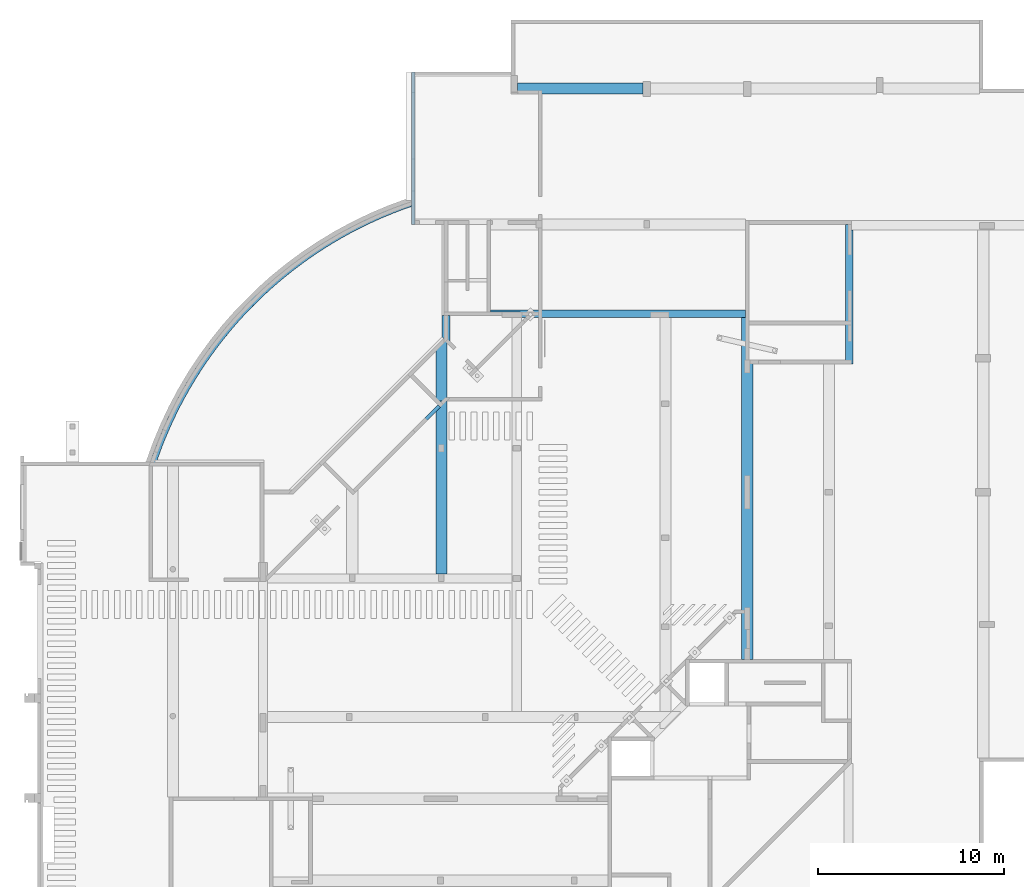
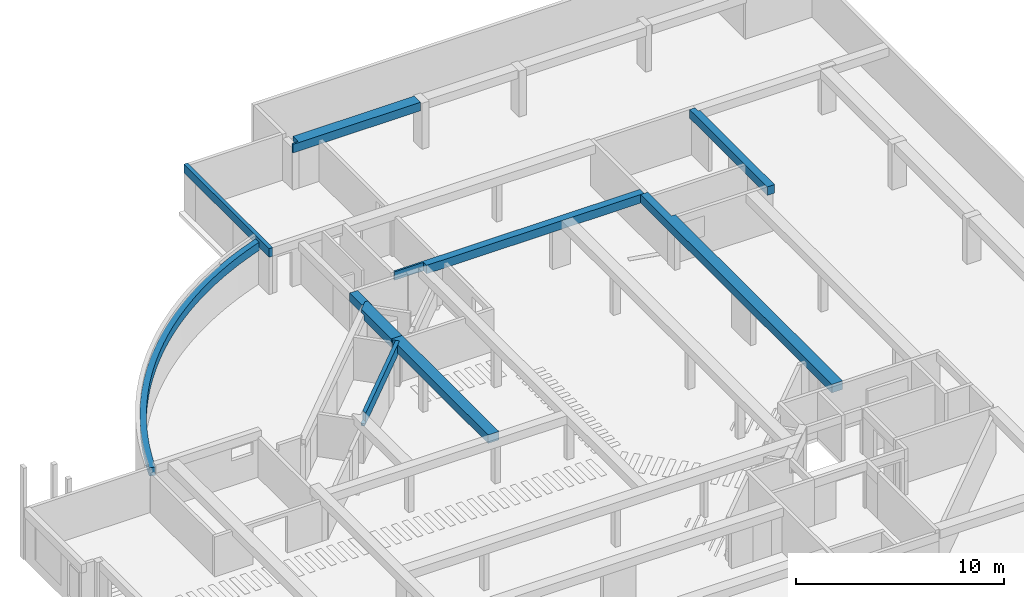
# One storey, part 7 of 12: 10 beams.
"""IFC4X3_ADD2 building model written with IfcOpenShell, lengths in millimetres."""

from ifc_helpers import new_model, si_unit, direction, frame, origin_with_axes, place, context, subcontext, project, spatial, polygons, source, transform, mapped, material, type_object, type_shapes, element, save


model = new_model("IFC4X3_ADD2")

# Units and contexts
model_context = context("Model", 3, precision=1e-05, world=origin_with_axes(), true_north=direction((0.0, 1.0)))
body_context = subcontext(model_context, "Body", "Model", "MODEL_VIEW")
ifc_project = project(units=[si_unit("LENGTHUNIT", "METRE", prefix="MILLI"), si_unit("AREAUNIT", "SQUARE_METRE"), si_unit("VOLUMEUNIT", "CUBIC_METRE"), si_unit("PLANEANGLEUNIT", "RADIAN"), si_unit("TIMEUNIT", "SECOND"), si_unit("MASSUNIT", "GRAM")], contexts=[model_context])

# Site, building, storey
site_placement = place(None, origin_with_axes())
site = spatial("IfcSite", under=ifc_project, at=site_placement, Name="Site", CompositionType="ELEMENT")
building_placement = place(site_placement, origin_with_axes())
building = spatial("IfcBuilding", under=site, at=building_placement, Name="IFC Building Story")
storey_placement = place(building_placement, frame((0.0, 0.0, -5940.0), z_axis=(0.0, 0.0, 1.0), x_axis=(1.0, 0.0, 0.0)))
storey = spatial("IfcBuildingStorey", under=building, at=storey_placement, Name="K20", Elevation=-5940.0)

# Beams
ifc_material = material(Name="BB_Beton_Bestaand")
beam_type_1 = type_object("IfcBeamType", Name="BB_XX_Betonbalk_ rechthoekig_ center-center_SFB_600 x 500 mm9", PredefinedType="NOTDEFINED")
shared_shape_1 = source(origin_with_axes(), body_context, "Body", "Tessellation", [
    polygons([(4.33146851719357e-12, 0.0, 500.0), (-4.33146851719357e-12, 0.0, 0.0), (599.999999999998, 0.0, 0.0), (599.999999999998, 0.0, 500.0), (8.66293703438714e-12, 9303.34636955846, 500.0), (600.000000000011, 9303.34636955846, 500.0), (600.000000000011, 9303.34636955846, 290.0), (600.000000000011, 9303.34636955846, 0.0), (593.043331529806, 9303.34636955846, 0.0), (8.66293703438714e-12, 9303.34636955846, 0.0), (1.29944055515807e-11, 8710.30303802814, 500.0), (8.66293703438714e-12, 8710.30303802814, 0.0), (1.29944055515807e-11, 8602.72690683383, 0.0), (1.29944055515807e-11, 8462.81566461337, 0.0), (257.338918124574, 8967.64195615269, 0.0), (2.16573425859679e-11, 9224.98087427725, 0.0), (600.000000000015, 9289.9959341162, 0.0), (600.000000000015, 9066.82934702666, 0.0), (2.16573425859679e-11, 9224.98087427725, 500.0), (115.917561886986, 9109.06331239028, 500.0), (257.338918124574, 8967.64195615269, 500.000000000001), (1.73258740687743e-11, 9224.98087427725, 299.999999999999)], [[[1, 2, 3, 4]], [[9, 10, 5]], [[9, 5, 7]], [[7, 8, 9]], [[5, 6, 7]], [[14, 2, 1]], [[14, 1, 11]], [[11, 13, 14]], [[11, 12, 13]], [[17, 18, 9]], [[9, 8, 17]], [[18, 15, 16]], [[18, 16, 10]], [[18, 10, 9]], [[18, 13, 12]], [[18, 12, 15]], [[18, 14, 13]], [[18, 3, 2]], [[18, 2, 14]], [[7, 6, 17]], [[17, 8, 7]], [[6, 18, 17]], [[6, 4, 3]], [[6, 3, 18]], [[21, 11, 1]], [[21, 1, 4]], [[4, 6, 21]], [[6, 5, 20]], [[6, 20, 21]], [[5, 19, 20]], [[22, 16, 20]], [[20, 19, 22]], [[16, 15, 21]], [[16, 21, 20]], [[21, 15, 12, 11]], [[22, 19, 5]], [[5, 10, 16]], [[5, 16, 22]]]),
])
type_shapes(beam_type_1, [shared_shape_1])
beam_1_placement = place(storey_placement, frame((-29350.0, 24700.0, 2200.0), z_axis=(0.0, 0.0, 1.0), x_axis=(1.0, 0.0, 0.0)))
element("IfcBeam", 1, at=beam_1_placement, inside=storey, type_object=beam_type_1, material=ifc_material, Name="BB_XX_Betonbalk, rechthoekig, center-center_SFB:600 x 500 mm", ObjectType="BB_XX_Betonbalk, rechthoekig, center-center_SFB:600 x 500 mm", PredefinedType="BEAM", context=body_context, shape_type="MappedRepresentation", body=[
    mapped(shared_shape_1, transform((0.0, 0.0, 0.0))),
])
beam_type_2 = type_object("IfcBeamType", Name="BB_XX_Betonbalk_ rechthoekig_ center-center_SFB_600 x 500 mm13", PredefinedType="NOTDEFINED")
shared_shape_2 = source(origin_with_axes(), body_context, "Body", "Tessellation", [
    polygons([(0.0, 0.0, 500.0), (0.0, 0.0, 0.0), (600.000000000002, 0.0, 0.0), (600.000000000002, 0.0, 500.0), (600.000000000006, 3340.0, 500.0), (600.000000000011, 3340.0, 300.0), (600.000000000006, 3340.0, 0.0), (450.000000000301, 3340.0, 0.0), (450.000000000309, 3340.0, 300.0), (450.000000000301, 3340.0, 500.0), (1.29944055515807e-11, 2889.99999999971, 500.0), (1.29944055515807e-11, 2889.99999999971, 300.0), (1.29944055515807e-11, 2659.64786192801, 300.0), (0.0, 2659.64786192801, 0.0), (0.0, 204.477217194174, 0.0), (515.649711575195, 3175.2975735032, 0.0), (537.001702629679, 3196.64956455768, 0.0), (563.137084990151, 3222.78494691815, 0.0), (447.9610159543, 3337.96101595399, 0.0), (600.000000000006, 3196.64956455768, 0.0), (600.000000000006, 3090.94728507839, 0.0), (600.000000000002, 275.619601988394, 0.0), (600.000000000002, 176.649564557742, 0.0), (600.000000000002, 19.9558202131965, 0.0), (600.000000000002, 6.95666847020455, 0.0), (600.000000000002, 275.619601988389, 500.0), (600.000000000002, 19.9558202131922, 500.0), (447.961015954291, 3337.96101595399, 300.0), (563.137084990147, 3222.78494691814, 300.0)], [[[1, 2, 3, 4]], [[6, 7, 8]], [[6, 8, 9]], [[9, 10, 5]], [[9, 5, 6]], [[15, 2, 1]], [[1, 13, 14]], [[1, 14, 15]], [[1, 11, 13]], [[11, 12, 13]], [[18, 19, 8]], [[18, 8, 7]], [[18, 7, 20]], [[20, 17, 18]], [[20, 21, 16]], [[20, 16, 17]], [[22, 23, 15]], [[15, 14, 16]], [[15, 16, 21]], [[15, 21, 22]], [[25, 3, 2]], [[2, 24, 25]], [[2, 15, 23]], [[2, 23, 24]], [[6, 5, 20]], [[20, 7, 6]], [[5, 21, 20]], [[5, 26, 22]], [[5, 22, 21]], [[26, 23, 22]], [[26, 27, 24]], [[26, 24, 23]], [[27, 4, 25]], [[27, 25, 24]], [[4, 3, 25]], [[26, 5, 10]], [[26, 10, 11]], [[26, 11, 1]], [[1, 27, 26]], [[1, 4, 27]], [[9, 8, 19]], [[9, 19, 28]], [[28, 12, 11]], [[28, 11, 10]], [[10, 9, 28]], [[29, 28, 19, 18]], [[16, 14, 13]], [[16, 13, 29]], [[29, 17, 16]], [[29, 18, 17]], [[28, 29, 13, 12]]]),
])
type_shapes(beam_type_2, [shared_shape_2])
beam_2_placement = place(storey_placement, frame((-29350.0, 34003.3463695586, 2200.0), z_axis=(0.0, 0.0, 1.0), x_axis=(1.0, 0.0, 0.0)))
element("IfcBeam", 2, at=beam_2_placement, inside=storey, type_object=beam_type_2, material=ifc_material, Name="BB_XX_Betonbalk, rechthoekig, center-center_SFB:600 x 500 mm", ObjectType="BB_XX_Betonbalk, rechthoekig, center-center_SFB:600 x 500 mm", PredefinedType="BEAM", context=body_context, shape_type="MappedRepresentation", body=[
    mapped(shared_shape_2, transform((0.0, 0.0, 0.0))),
])
beam_type_3 = type_object("IfcBeamType", Name="BB_XX_Betonbalk_ rechthoekig_ center-center_SFB_200 x 640 mm1", PredefinedType="NOTDEFINED")
shared_shape_3 = source(origin_with_axes(), body_context, "Body", "Tessellation", [
    polygons([(4716.40223051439, 4574.98087427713, 0.0), (4574.98087427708, 4716.40223051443, 0.0), (4574.98087427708, 4716.40223051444, 140.0), (4574.98087427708, 4716.40223051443, 640.0), (4716.40223051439, 4574.98087427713, 640.0), (4716.40223051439, 4574.98087427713, 140.0), (4.33146851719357e-12, 141.421356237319, 0.0), (141.421356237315, 4.33146851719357e-12, 0.0), (141.421356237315, 4.33146851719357e-12, 139.999999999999), (4.33146851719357e-12, 141.421356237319, 139.999999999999), (4459.06331239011, 4317.64195615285, 640.0), (259.063312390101, 117.641956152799, 640.0), (259.063312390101, 117.641956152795, 139.999999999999), (255.917561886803, 397.338918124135, 139.999999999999), (255.91756188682, 397.338918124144, 640.0), (259.063312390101, 397.338918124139, 640.0), (259.063312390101, 397.338918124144, 139.999999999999)], [[[3, 4, 5]], [[3, 5, 6]], [[6, 1, 2]], [[6, 2, 3]], [[7, 8, 9, 10]], [[11, 12, 13]], [[11, 13, 6]], [[6, 5, 11]], [[13, 9, 8]], [[8, 1, 6]], [[8, 6, 13]], [[2, 1, 8, 7]], [[3, 2, 14]], [[14, 15, 4]], [[14, 4, 3]], [[2, 7, 14]], [[7, 10, 14]], [[11, 5, 4]], [[4, 16, 12]], [[4, 12, 11]], [[4, 15, 16]], [[17, 16, 15, 14]], [[17, 14, 10]], [[17, 10, 9]], [[17, 9, 13]], [[16, 17, 13, 12]]]),
])
type_shapes(beam_type_3, [shared_shape_3])
beam_3_placement = place(storey_placement, frame((-33809.0633123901, 29092.661081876, 2060.0), z_axis=(0.0, 0.0, 1.0), x_axis=(1.0, 0.0, 0.0)))
element("IfcBeam", 3, at=beam_3_placement, inside=storey, type_object=beam_type_3, material=ifc_material, Name="BB_XX_Betonbalk, rechthoekig, center-center_SFB:200 x 640 mm", ObjectType="BB_XX_Betonbalk, rechthoekig, center-center_SFB:200 x 640 mm", PredefinedType="BEAM", context=body_context, shape_type="MappedRepresentation", body=[
    mapped(shared_shape_3, transform((0.0, 0.0, 0.0))),
])
beam_type_4 = type_object("IfcBeamType", Name="BB_XX_Betonbalk_ rechthoekig_ center-center_SFB_320 x 490 mm3", PredefinedType="NOTDEFINED")
shared_shape_4 = source(origin_with_axes(), body_context, "Body", "Tessellation", [
    polygons([(14111.3640194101, 14203.9775217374, 190.000000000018), (14111.3640194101, 14203.9775217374, 490.000000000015), (14212.8383407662, 13900.4928234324, 490.000000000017), (14212.8383407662, 13900.4928234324, 190.000000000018), (14212.8383407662, 13900.4928234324, 1.67844405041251e-11), (14111.3640194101, 14203.9775217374, 1.51601398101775e-11), (85.8523727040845, 75.0317263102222, 1.62430069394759e-11), (305.014760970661, 1.59527223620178, 1.73258740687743e-11), (305.014760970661, 1.59527223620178, 200.000000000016), (305.014760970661, 1.59527223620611, 490.000000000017), (259.253933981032, 16.9287101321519, 490.000000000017), (85.8523727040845, 75.0317263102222, 490.000000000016), (10.118854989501, 100.40834790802, 490.000000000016), (1.59527223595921, 103.264411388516, 490.000000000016), (1.59527223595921, 103.264411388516, 1.57015733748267e-11), (10.0372501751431, 100.435691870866, 1.57015733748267e-11), (81.5930016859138, 76.4589470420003, 1.62430069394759e-11), (673.147784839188, 1016.9482100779, 490.000000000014), (840.308079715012, 1432.45292376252, 1.29944055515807e-11), (834.184061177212, 1417.6511622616, 490.000000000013), (1003.04140701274, 1815.12253339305, 490.000000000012), (1030.00105808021, 1876.63783729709, 1.19115384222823e-11), (1211.36304695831, 2277.83334582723, 490.000000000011), (1229.38269811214, 2316.55881404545, 1.08286712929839e-11), (1430.28360486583, 2735.6263342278, 490.00000000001), (339.648558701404, 104.119479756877, 490.000000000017), (374.780749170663, 206.45902925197, 490.000000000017), (490.347914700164, 532.146647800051, 1.57015733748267e-11), (519.994683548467, 613.168423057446, 490.000000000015), (660.394871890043, 984.217382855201, 1.40772726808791e-11), (1659.68644918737, 3188.25749324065, 490.000000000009), (1438.3572374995, 2752.00458504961, 9.74580416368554e-12), (3548.1104591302, 6192.36284985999, 490.000000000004), (3249.03985152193, 5782.41477179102, 490.000000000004), (3388.39405422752, 5975.9024144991, 3.79003495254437e-12), (3698.16768731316, 6390.80971712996, 3.24860138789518e-12), (3856.54051928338, 6595.31639519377, 490.000000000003), (4500.82002592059, 7379.38915182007, 490.000000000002), (4174.16650802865, 6991.0617684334, 490.000000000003), (4346.52506226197, 7198.22272152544, 2.70716782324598e-12), (4017.60346884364, 6798.32480536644, 2.70716782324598e-12), (4836.32788730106, 7760.09266043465, 490.000000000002), (4684.75089463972, 7590.28271279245, 2.16573425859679e-12), (2149.44700244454, 4077.07727791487, 490.000000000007), (1899.44995451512, 3635.48684558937, 490.000000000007), (1990.25162940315, 3798.63523884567, 7.58006990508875e-12), (2409.5450489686, 4512.79466648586, 490.000000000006), (2249.259096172, 4246.99036744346, 6.49720277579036e-12), (2798.51181665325, 5124.83127379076, 4.87290208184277e-12), (2959.48725822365, 5365.68950868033, 490.000000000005), (2679.60619474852, 4942.40800132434, 490.000000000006), (2518.72884211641, 4689.13724660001, 5.95576921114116e-12), (3088.45357243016, 5553.8319358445, 4.33146851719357e-12), (1884.67839611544, 3608.63519771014, 7.58006990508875e-12), (5180.51221211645, 8132.9704513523, 490.000000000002), (5032.0942569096, 7974.28835308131, 2.16573425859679e-12), (317.59943056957, 39.0412863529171, 1.67844405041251e-11), (330.249334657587, 76.4591713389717, 1.67844405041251e-11), (1656.82429783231, 3182.76600834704, 8.66293703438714e-12), (1937.23186563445, 3703.7673540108, 7.58006990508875e-12), (5388.36340693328, 8350.02766250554, 2.16573425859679e-12), (5533.19052022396, 8497.82483065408, 490.000000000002), (7816.860393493, 10507.9373103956, 490.000000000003), (8115.05636719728, 10731.9258331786, 3.79003495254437e-12), (8223.52164005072, 10811.4623261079, 490.000000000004), (8535.26129142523, 11034.4741868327, 3.79003495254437e-12), (8637.06352281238, 11105.5438334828, 490.000000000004), (9057.26678951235, 11390.0259144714, 490.000000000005), (9396.41117936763, 11609.5425077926, 5.41433564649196e-12), (9483.90865612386, 11664.7577404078, 490.000000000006), (8962.45816980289, 11327.0669176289, 4.87290208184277e-12), (9836.88076763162, 11881.7450244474, 5.95576921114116e-12), (9916.76292497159, 11929.5936519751, 490.000000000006), (6263.27674815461, 9202.69395038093, 490.000000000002), (5894.17582813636, 8854.46235823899, 490.000000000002), (6126.88757413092, 9075.88229979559, 2.16573425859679e-12), (6508.73490782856, 9425.59693938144, 2.16573425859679e-12), (6640.29758983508, 9542.33497997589, 490.000000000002), (7417.29538740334, 10195.1297111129, 490.000000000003), (7025.03846373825, 9873.20537442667, 490.000000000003), (7296.54624646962, 10097.6357148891, 2.70716782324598e-12), (6898.69288737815, 9766.24409273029, 2.70716782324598e-12), (7702.0753603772, 10419.5888701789, 3.24860138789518e-12), (10355.6001046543, 12184.3932364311, 490.000000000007), (10283.6237848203, 12143.5242056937, 7.03863634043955e-12), (13101.0287918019, 13495.2439931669, 490.000000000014), (13565.3637688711, 13672.7308266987, 1.46187062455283e-11), (13575.0697494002, 13676.3133113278, 490.000000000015), (14053.1525018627, 13846.4196847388, 490.000000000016), (14055.6440054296, 13847.2738329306, 490.000000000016), (14058.1518019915, 13848.1332307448, 490.000000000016), (14135.4412849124, 13874.4545208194, 490.000000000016), (11250.2894939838, 12663.3484497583, 490.000000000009), (10800.1875317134, 12429.0214020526, 490.000000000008), (11194.9403276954, 12635.2403637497, 8.66293703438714e-12), (11705.6673555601, 12887.2501418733, 490.000000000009), (11659.010784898, 12864.9059022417, 9.74580416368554e-12), (12602.6953225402, 13291.218065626, 1.19115384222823e-11), (12631.2823749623, 13303.3082079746, 490.000000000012), (12166.0796833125, 13100.6077679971, 490.000000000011), (12128.3488117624, 13083.6053785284, 1.08286712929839e-11), (13081.7884667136, 13487.6293567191, 1.35358391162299e-11), (10736.3936180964, 12394.7355435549, 7.58006990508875e-12), (5753.36167534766, 8717.29322439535, 2.16573425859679e-12), (14053.1525018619, 13846.4196847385, 1.62430069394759e-11), (14132.9379449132, 13873.6070013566, 1.62430069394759e-11), (2.1306046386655, 104.861847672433, 1.51601398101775e-11), (2.66616611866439, 106.459533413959, 1.51601398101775e-11), (362.212789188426, 1100.35303760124, 1.24529719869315e-11), (768.328773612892, 2076.14477135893, 9.74580416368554e-12), (1220.10631467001, 3031.65340190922, 7.58006990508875e-12), (1716.53582473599, 3964.74365505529, 5.41433564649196e-12), (2256.50793249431, 4873.33035497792, 3.79003495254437e-12), (2838.81596205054, 5755.38308397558, 2.16573425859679e-12), (3462.15862949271, 6608.93071983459, 1.08286712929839e-12), (4125.14295087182, 7432.06584069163, 0.0), (4826.28735510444, 8222.94898754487, 0.0), (5386.19576674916, 8783.95238566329, 0.0), (5946.10417839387, 9344.95578378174, 0.0), (6735.61595271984, 10047.6440228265, 0.0), (7557.45418636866, 10712.2352590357, 1.08286712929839e-12), (8409.78231773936, 11337.2443314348, 2.16573425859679e-12), (9290.69564952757, 11921.2745333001, 3.24860138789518e-12), (10198.2256051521, 12463.0207333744, 4.87290208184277e-12), (11130.3441279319, 12961.2722924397, 7.03863634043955e-12), (12084.9682131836, 13414.9157687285, 9.20437059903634e-12), (13059.9645631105, 13822.9374061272, 1.19115384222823e-11), (14053.1434674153, 14184.4215671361, 1.46187062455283e-11), (14082.2490529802, 14194.2202952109, 1.46187062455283e-11), (2.66595813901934, 106.458947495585, 490.000000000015), (362.212789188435, 1100.35303760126, 490.000000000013), (768.328773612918, 2076.144771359, 490.00000000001), (2.1306046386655, 104.861847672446, 490.000000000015), (1220.10631467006, 3031.65340190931, 490.000000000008), (2838.81596205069, 5755.38308397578, 490.000000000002), (3462.15862949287, 6608.93071983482, 490.000000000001), (4125.14295087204, 7432.06584069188, 490.000000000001), (1716.53582473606, 3964.74365505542, 490.000000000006), (2256.50793249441, 4873.33035497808, 490.000000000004), (4826.2873551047, 8222.94898754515, 490.000000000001), (5386.19576674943, 8783.95238566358, 490.000000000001), (5946.10417839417, 9344.95578378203, 490.0), (8409.7823177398, 11337.2443314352, 490.000000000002), (7557.45418636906, 10712.235259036, 490.000000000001), (9290.69564952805, 11921.2745333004, 490.000000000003), (6735.61595272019, 10047.6440228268, 490.000000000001), (10198.2256051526, 12463.0207333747, 490.000000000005), (14053.1525018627, 14184.424774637, 490.000000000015), (14082.2490529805, 14194.220295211, 490.000000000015), (13059.9645631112, 13822.9374061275, 490.000000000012), (11130.3441279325, 12961.27229244, 490.000000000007), (12084.9682131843, 13414.9157687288, 490.000000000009)], [[[1, 2, 3]], [[1, 3, 4]], [[4, 5, 6]], [[4, 6, 1]], [[11, 12, 7]], [[11, 7, 9]], [[9, 10, 11]], [[7, 8, 9]], [[13, 14, 15]], [[13, 15, 16]], [[17, 7, 12]], [[12, 13, 16]], [[12, 16, 17]], [[18, 19, 20]], [[21, 22, 23]], [[21, 20, 19]], [[23, 24, 25]], [[26, 10, 9]], [[27, 26, 9]], [[28, 29, 9]], [[27, 9, 29]], [[29, 30, 18]], [[31, 25, 32]], [[33, 34, 35]], [[33, 36, 37]], [[38, 39, 40]], [[41, 39, 37]], [[42, 38, 43]], [[44, 45, 46]], [[47, 44, 48]], [[49, 50, 51]], [[47, 52, 51]], [[34, 50, 53]], [[31, 54, 45]], [[55, 42, 56]], [[8, 57, 9]], [[57, 58, 9]], [[9, 58, 28]], [[28, 30, 29]], [[18, 30, 19]], [[21, 19, 22]], [[23, 22, 24]], [[32, 25, 24]], [[31, 32, 59]], [[31, 59, 54]], [[45, 54, 60]], [[45, 60, 46]], [[44, 46, 48]], [[52, 47, 48]], [[51, 52, 49]], [[53, 50, 49]], [[35, 34, 53]], [[36, 33, 35]], [[36, 41, 37]], [[40, 39, 41]], [[43, 38, 40]], [[42, 43, 56]], [[56, 61, 55]], [[61, 62, 55]], [[63, 64, 65]], [[66, 67, 65]], [[68, 69, 70]], [[68, 67, 71]], [[70, 72, 73]], [[74, 75, 76]], [[74, 77, 78]], [[79, 80, 81]], [[82, 80, 78]], [[79, 83, 63]], [[84, 73, 85]], [[86, 87, 88]], [[89, 4, 90]], [[89, 88, 4]], [[4, 91, 90]], [[91, 4, 92]], [[93, 94, 95]], [[96, 93, 97]], [[98, 99, 100]], [[96, 101, 100]], [[86, 99, 102]], [[94, 84, 103]], [[3, 92, 4]], [[62, 104, 75]], [[104, 76, 75]], [[61, 104, 62]], [[74, 76, 77]], [[77, 82, 78]], [[80, 82, 81]], [[79, 81, 83]], [[63, 83, 64]], [[66, 65, 64]], [[67, 66, 71]], [[68, 71, 69]], [[70, 69, 72]], [[103, 95, 94]], [[85, 73, 72]], [[97, 101, 96]], [[93, 95, 97]], [[101, 98, 100]], [[84, 85, 103]], [[99, 98, 102]], [[86, 102, 87]], [[4, 87, 105]], [[105, 106, 4]], [[106, 5, 4]], [[87, 4, 88]], [[107, 108, 16]], [[16, 15, 107]], [[108, 17, 16]], [[108, 7, 17]], [[7, 108, 57]], [[57, 8, 7]], [[108, 58, 57]], [[108, 109, 28]], [[108, 28, 58]], [[109, 30, 28]], [[109, 19, 30]], [[109, 110, 22]], [[109, 22, 19]], [[110, 24, 22]], [[110, 111, 32]], [[110, 32, 24]], [[111, 59, 32]], [[111, 112, 54]], [[111, 54, 59]], [[112, 60, 54]], [[112, 46, 60]], [[112, 48, 46]], [[129, 6, 5]], [[5, 106, 128]], [[5, 128, 129]], [[87, 102, 127]], [[127, 128, 105]], [[127, 105, 87]], [[128, 106, 105]], [[98, 101, 126]], [[126, 127, 102]], [[126, 102, 98]], [[97, 95, 125]], [[125, 126, 101]], [[125, 101, 97]], [[103, 85, 124]], [[124, 125, 95]], [[124, 95, 103]], [[72, 69, 123]], [[123, 124, 85]], [[123, 85, 72]], [[71, 66, 122]], [[122, 123, 69]], [[122, 69, 71]], [[64, 83, 121]], [[121, 122, 66]], [[121, 66, 64]], [[81, 82, 120]], [[120, 121, 83]], [[120, 83, 81]], [[77, 76, 119]], [[119, 120, 82]], [[119, 82, 77]], [[76, 104, 118]], [[76, 118, 119]], [[61, 56, 117]], [[61, 117, 118]], [[118, 104, 61]], [[43, 40, 116]], [[116, 117, 56]], [[116, 56, 43]], [[41, 36, 115]], [[115, 116, 40]], [[115, 40, 41]], [[35, 53, 114]], [[114, 115, 36]], [[114, 36, 35]], [[49, 52, 113]], [[113, 114, 53]], [[113, 53, 49]], [[52, 48, 112]], [[52, 112, 113]], [[108, 130, 131, 109]], [[131, 132, 110, 109]], [[15, 14, 133, 107]], [[130, 107, 133]], [[111, 110, 132, 134]], [[115, 114, 135, 136]], [[116, 115, 136, 137]], [[113, 112, 138, 139]], [[114, 113, 139, 135]], [[138, 112, 111, 134]], [[117, 116, 137, 140]], [[130, 108, 107]], [[118, 117, 140]], [[118, 140, 141]], [[141, 142, 119]], [[141, 119, 118]], [[143, 122, 121, 144]], [[145, 123, 122, 143]], [[120, 119, 142, 146]], [[144, 121, 120, 146]], [[124, 123, 145, 147]], [[1, 148, 149]], [[148, 1, 150]], [[126, 125, 151, 152]], [[127, 126, 152, 150]], [[147, 151, 125, 124]], [[1, 149, 2]], [[6, 129, 1]], [[127, 1, 128]], [[129, 128, 1]], [[1, 127, 150]], [[149, 148, 92]], [[149, 92, 3]], [[3, 2, 149]], [[148, 91, 92]], [[148, 90, 91]], [[148, 89, 90]], [[148, 150, 88]], [[148, 88, 89]], [[150, 86, 88]], [[150, 152, 99]], [[150, 99, 86]], [[152, 100, 99]], [[152, 151, 96]], [[152, 96, 100]], [[151, 93, 96]], [[151, 147, 94]], [[151, 94, 93]], [[147, 84, 94]], [[147, 73, 84]], [[147, 145, 70]], [[147, 70, 73]], [[145, 68, 70]], [[145, 143, 67]], [[145, 67, 68]], [[143, 65, 67]], [[143, 144, 63]], [[143, 63, 65]], [[144, 79, 63]], [[144, 146, 80]], [[144, 80, 79]], [[146, 78, 80]], [[146, 142, 74]], [[146, 74, 78]], [[142, 75, 74]], [[142, 141, 62]], [[142, 62, 75]], [[141, 140, 55]], [[141, 55, 62]], [[140, 42, 55]], [[140, 137, 38]], [[140, 38, 42]], [[137, 39, 38]], [[137, 136, 37]], [[137, 37, 39]], [[136, 33, 37]], [[136, 135, 34]], [[136, 34, 33]], [[135, 50, 34]], [[13, 12, 133]], [[133, 14, 13]], [[12, 130, 133]], [[29, 18, 11]], [[11, 27, 29]], [[11, 26, 27]], [[11, 10, 26]], [[18, 131, 12]], [[18, 12, 11]], [[131, 130, 12]], [[20, 21, 132]], [[20, 132, 131]], [[131, 18, 20]], [[23, 25, 134]], [[23, 134, 132]], [[132, 21, 23]], [[31, 45, 138]], [[31, 138, 134]], [[134, 25, 31]], [[44, 47, 139]], [[44, 139, 138]], [[138, 45, 44]], [[51, 50, 135]], [[51, 135, 139]], [[139, 47, 51]]]),
])
type_shapes(beam_type_4, [shared_shape_4])
beam_4_placement = place(storey_placement, frame((-44718.152501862, 30618.541052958, 2010.0), z_axis=(0.0, 0.0, 1.0), x_axis=(1.0, 0.0, 0.0)))
element("IfcBeam", 4, at=beam_4_placement, inside=storey, type_object=beam_type_4, material=ifc_material, Name="BB_XX_Betonbalk, rechthoekig, center-center_SFB:320 x 490 mm", ObjectType="BB_XX_Betonbalk, rechthoekig, center-center_SFB:320 x 490 mm", PredefinedType="BEAM", context=body_context, shape_type="MappedRepresentation", body=[
    mapped(shared_shape_4, transform((0.0, 0.0, 0.0))),
])
beam_type_5 = type_object("IfcBeamType", Name="BB_XX_Betonbalk_ rechthoekig_ center-center_SFB_400 x 500 mm1", PredefinedType="NOTDEFINED")
shared_shape_5 = source(origin_with_axes(), body_context, "Body", "Tessellation", [
    polygons([(13699.9959341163, 4.33146851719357e-12, 500.0), (13699.9959341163, 4.33146851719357e-12, 0.0), (13699.9959341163, 400.0, 0.0), (13699.9959341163, 400.0, 500.0), (0.0, 400.000000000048, 500.0), (0.0, 400.000000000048, 0.0), (0.0, 299.995934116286, 0.0), (0.0, 299.995934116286, 500.0), (1600.00000000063, 3.89832166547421e-11, 500.0), (1600.00000000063, 3.89832166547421e-11, 0.0), (1871.03402845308, 3.89832166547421e-11, 0.0), (2139.73460530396, 3.89832166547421e-11, 0.0), (1600.00000000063, 299.995934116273, 0.0), (1600.00000000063, 299.995934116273, 500.0), (1600.00000000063, 299.995934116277, 300.0)], [[[1, 2, 3, 4]], [[5, 6, 7, 8]], [[12, 2, 1]], [[12, 1, 9]], [[9, 11, 12]], [[9, 10, 11]], [[11, 10, 13]], [[13, 12, 11]], [[13, 7, 6]], [[13, 6, 3]], [[3, 2, 12]], [[3, 12, 13]], [[4, 3, 6, 5]], [[14, 9, 1]], [[14, 1, 4]], [[4, 5, 14]], [[5, 8, 14]], [[15, 13, 10]], [[15, 10, 9]], [[9, 14, 15]], [[15, 14, 8]], [[8, 7, 13]], [[8, 13, 15]]]),
])
type_shapes(beam_type_5, [shared_shape_5])
beam_5_placement = place(storey_placement, frame((-26400.0, 38500.0, 2200.0), z_axis=(0.0, 0.0, 1.0), x_axis=(1.0, 0.0, 0.0)))
element("IfcBeam", 5, at=beam_5_placement, inside=storey, type_object=beam_type_5, material=ifc_material, Name="BB_XX_Betonbalk, rechthoekig, center-center_SFB:400 x 500 mm", ObjectType="BB_XX_Betonbalk, rechthoekig, center-center_SFB:400 x 500 mm", PredefinedType="BEAM", context=body_context, shape_type="MappedRepresentation", body=[
    mapped(shared_shape_5, transform((0.0, 0.0, 0.0))),
])
beam_type_6 = type_object("IfcBeamType", Name="BB_XX_Betonbalk_ rechthoekig_ center-center_SFB_440 x 490 mm", PredefinedType="NOTDEFINED")
shared_shape_6 = source(origin_with_axes(), body_context, "Body", "Tessellation", [
    polygons([(440.0, 1400.00000000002, 490.0), (440.0, 1400.00000000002, 0.0), (4.33146851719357e-12, 1400.00000000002, 0.0), (4.33146851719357e-12, 1400.00000000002, 490.0), (320.00000000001, 1400.00000000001, 490.0), (440.0, 8.66293703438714e-12, 0.0), (440.0, 8.66293703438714e-12, 490.0), (270.000000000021, 8.66293703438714e-12, 490.0), (270.000000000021, 8.66293703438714e-12, 480.0), (270.000000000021, 8.66293703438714e-12, 190.0), (207.001702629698, 8.66293703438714e-12, 190.0), (207.001702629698, 8.66293703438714e-12, 0.0), (432.998297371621, 8.66293703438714e-12, 0.0), (233.137084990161, 26.1353823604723, 0.0), (6.86291501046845, 252.409552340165, 0.0), (4.33146851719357e-12, 245.546637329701, 0.0), (4.33146851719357e-12, 245.546637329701, 490.0), (6.86291501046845, 252.409552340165, 490.0), (117.961015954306, 141.311451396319, 490.0), (120.000000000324, 143.350435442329, 490.0), (270.00000000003, 143.350435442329, 490.0), (233.137084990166, 26.1353823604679, 190.0), (117.961015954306, 141.311451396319, 190.0), (120.000000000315, 143.350435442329, 190.0), (270.000000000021, 143.350435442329, 190.0)], [[[5, 1, 2]], [[2, 3, 4]], [[2, 4, 5]], [[10, 11, 12]], [[13, 6, 7]], [[10, 12, 13]], [[13, 7, 9]], [[13, 9, 10]], [[7, 8, 9]], [[2, 1, 7, 6]], [[15, 16, 3]], [[3, 2, 13]], [[3, 13, 14]], [[3, 14, 15]], [[13, 12, 14]], [[2, 6, 13]], [[4, 3, 16, 17]], [[21, 8, 5]], [[5, 4, 18]], [[5, 18, 20]], [[5, 20, 21]], [[18, 19, 20]], [[4, 17, 18]], [[8, 7, 1]], [[8, 1, 5]], [[23, 19, 18]], [[23, 18, 15]], [[15, 14, 22]], [[15, 22, 23]], [[15, 18, 17, 16]], [[14, 12, 11, 22]], [[24, 25, 21, 20]], [[22, 11, 10]], [[10, 25, 24]], [[10, 24, 23]], [[10, 23, 22]], [[9, 8, 21]], [[21, 25, 10]], [[21, 10, 9]], [[24, 20, 19, 23]]]),
])
type_shapes(beam_type_6, [shared_shape_6])
beam_6_placement = place(storey_placement, frame((-29020.0, 37199.9959341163, 2010.0), z_axis=(0.0, 0.0, 1.0), x_axis=(1.0, 0.0, 0.0)))
element("IfcBeam", 6, at=beam_6_placement, inside=storey, type_object=beam_type_6, material=ifc_material, Name="BB_XX_Betonbalk, rechthoekig, center-center_SFB:440 x 490 mm", ObjectType="BB_XX_Betonbalk, rechthoekig, center-center_SFB:440 x 490 mm", PredefinedType="BEAM", context=body_context, shape_type="MappedRepresentation", body=[
    mapped(shared_shape_6, transform((0.0, 0.0, 0.0))),
])
beam_type_7 = type_object("IfcBeamType", Name="BB_XX_Betonbalk_ rechthoekig_ center-center_SFB_600 x 500 mm19", PredefinedType="NOTDEFINED")
shared_shape_7 = source(origin_with_axes(), body_context, "Body", "Tessellation", [
    polygons([(2.16573425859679e-12, 0.0, 500.0), (2.16573425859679e-12, 0.0, 0.0), (600.000000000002, 0.0, 0.0), (600.000000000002, 0.0, 500.0), (2.81545453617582e-11, 18400.0000000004, 0.0), (2.81545453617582e-11, 18400.0000000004, 500.0), (399.995934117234, 18400.0000000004, 500.0), (399.995934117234, 18400.0000000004, 0.0), (399.995934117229, 16100.0000000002, 0.0), (600.000000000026, 16100.0000000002, 0.0), (600.000000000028, 16100.0000000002, 500.0), (399.995934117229, 16100.0000000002, 500.0)], [[[1, 2, 3, 4]], [[5, 6, 7, 8]], [[2, 1, 6, 5]], [[9, 10, 3]], [[3, 2, 5]], [[3, 5, 9]], [[5, 8, 9]], [[4, 3, 10, 11]], [[12, 7, 6]], [[12, 6, 1]], [[12, 1, 4]], [[4, 11, 12]], [[9, 12, 11, 10]], [[12, 9, 8, 7]]]),
])
type_shapes(beam_type_7, [shared_shape_7])
beam_7_placement = place(storey_placement, frame((-12900.0, 20100.0, 2200.0), z_axis=(0.0, 0.0, 1.0), x_axis=(1.0, 0.0, 0.0)))
element("IfcBeam", 7, at=beam_7_placement, inside=storey, type_object=beam_type_7, material=ifc_material, Name="BB_XX_Betonbalk, rechthoekig, center-center_SFB:600 x 500 mm", ObjectType="BB_XX_Betonbalk, rechthoekig, center-center_SFB:600 x 500 mm", PredefinedType="BEAM", context=body_context, shape_type="MappedRepresentation", body=[
    mapped(shared_shape_7, transform((0.0, 0.0, 0.0))),
])
beam_type_8 = type_object("IfcBeamType", Name="BB_XX_Betonbalk_ rechthoekig_ center-center_SFB_400 x 500 mm3", PredefinedType="NOTDEFINED")
shared_shape_8 = source(origin_with_axes(), body_context, "Body", "Tessellation", [
    polygons([(1.08286712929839e-11, 7499.99999999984, 0.0), (1.08286712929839e-11, 7499.99999999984, 500.0), (299.999999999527, 7499.99999999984, 500.0), (299.999999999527, 7499.99999999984, 0.0), (399.999999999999, 0.0, 500.0), (1.08286712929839e-12, 0.0, 500.0), (1.08286712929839e-12, 0.0, 0.0), (399.999999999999, 0.0, 0.0), (400.000000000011, 7199.99999999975, 0.0), (400.000000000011, 7199.99999999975, 500.0), (3.24860138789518e-12, 2100.00000000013, 0.0), (3.24860138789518e-12, 2300.00000000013, 0.0), (299.999999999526, 7199.99999999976, 0.0), (3.24860138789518e-12, 2100.00000000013, 500.0), (3.24860138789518e-12, 2300.00000000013, 500.0), (299.999999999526, 7199.99999999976, 500.0)], [[[1, 2, 3, 4]], [[5, 6, 7, 8]], [[5, 8, 9, 10]], [[13, 9, 8]], [[8, 12, 1]], [[8, 1, 13]], [[1, 4, 13]], [[8, 11, 12]], [[8, 7, 11]], [[11, 7, 6]], [[11, 6, 14]], [[14, 15, 12]], [[14, 12, 11]], [[15, 2, 1]], [[15, 1, 12]], [[16, 3, 2]], [[14, 6, 5]], [[5, 15, 14]], [[16, 2, 15]], [[16, 15, 5]], [[5, 10, 16]], [[16, 13, 4, 3]], [[13, 16, 10, 9]]]),
])
type_shapes(beam_type_8, [shared_shape_8])
beam_8_placement = place(storey_placement, frame((-7300.0, 36000.0, 2200.0), z_axis=(0.0, 0.0, 1.0), x_axis=(1.0, 0.0, 0.0)))
element("IfcBeam", 8, at=beam_8_placement, inside=storey, type_object=beam_type_8, material=ifc_material, Name="BB_XX_Betonbalk, rechthoekig, center-center_SFB:400 x 500 mm", ObjectType="BB_XX_Betonbalk, rechthoekig, center-center_SFB:400 x 500 mm", PredefinedType="BEAM", context=body_context, shape_type="MappedRepresentation", body=[
    mapped(shared_shape_8, transform((0.0, 0.0, 0.0))),
])
beam_type_9 = type_object("IfcBeamType", Name="BB_XX_Betonbalk_ rechthoekig_ center-center_SFB_600 x 500 mm29", PredefinedType="NOTDEFINED")
shared_shape_9 = source(origin_with_axes(), body_context, "Body", "Tessellation", [
    polygons([(7095.66861319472, 0.0, 500.0), (7095.66861319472, 0.0, 0.0), (7095.66861319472, 599.999999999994, 0.0), (7095.66861319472, 599.999999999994, 500.0), (0.0, 1.73258740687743e-11, 0.0), (0.0, 1.73258740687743e-11, 500.0), (0.0, 99.9999999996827, 500.0), (0.0, 99.9999999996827, 0.0), (340.000000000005, 99.9999999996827, 0.0), (340.000000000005, 600.00000000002, 0.0), (340.000000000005, 600.00000000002, 500.0), (340.000000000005, 99.9999999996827, 500.0)], [[[1, 2, 3, 4]], [[5, 6, 7, 8]], [[2, 1, 6, 5]], [[9, 10, 3]], [[9, 3, 2]], [[2, 5, 9]], [[5, 8, 9]], [[4, 3, 10, 11]], [[12, 7, 6]], [[12, 6, 1]], [[1, 4, 11]], [[1, 11, 12]], [[9, 12, 11, 10]], [[12, 9, 8, 7]]]),
])
type_shapes(beam_type_9, [shared_shape_9])
beam_9_placement = place(storey_placement, frame((-25295.0, 50505.0, 2200.0), z_axis=(0.0, 0.0, 1.0), x_axis=(1.0, 0.0, 0.0)))
element("IfcBeam", 9, at=beam_9_placement, inside=storey, type_object=beam_type_9, material=ifc_material, Name="BB_XX_Betonbalk, rechthoekig, center-center_SFB:600 x 500 mm", ObjectType="BB_XX_Betonbalk, rechthoekig, center-center_SFB:600 x 500 mm", PredefinedType="BEAM", context=body_context, shape_type="MappedRepresentation", body=[
    mapped(shared_shape_9, transform((0.0, 0.0, 0.0))),
])
beam_type_10 = type_object("IfcBeamType", Name="BB_XX_Betonbalk_ rechthoekig_ center-center_SFB_200 x 500 mm9", PredefinedType="NOTDEFINED")
shared_shape_10 = source(origin_with_axes(), body_context, "Body", "Tessellation", [
    polygons([(1.5952722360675, 8199.99999999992, 500.0), (201.59527223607, 8199.99999999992, 500.0), (201.59527223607, 8199.99999999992, 0.0), (1.5952722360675, 8199.99999999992, 0.0), (1.59527223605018, 0.0, 0.0), (201.595272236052, 0.0, 0.0), (201.595272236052, 0.0, 500.0), (1.59527223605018, 0.0, 500.0), (161.281111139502, 1019.03387639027, 0.0), (59.8067897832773, 1322.51857469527, 0.0), (30.6943182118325, 1312.76218617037, 0.0), (1.59527223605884, 1302.96582759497, 0.0), (1.5952722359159, 964.960737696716, 0.0), (81.3864838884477, 992.150007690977, 0.0), (81.3849660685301, 992.149493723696, 300.000000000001), (1.59527223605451, 964.96073769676, 300.000000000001), (1.59527223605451, 1302.96582759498, 299.999999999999), (30.6940952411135, 1312.76211127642, 299.999999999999), (59.8067897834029, 1322.51857469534, 299.999999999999), (161.281111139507, 1019.03387639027, 300.000000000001)], [[[1, 2, 3, 4]], [[5, 6, 7, 8]], [[6, 3, 2, 7]], [[11, 12, 4]], [[4, 10, 11]], [[4, 3, 9]], [[4, 9, 10]], [[3, 6, 9]], [[14, 9, 6]], [[6, 5, 13]], [[6, 13, 14]], [[15, 16, 17]], [[18, 19, 20]], [[20, 15, 17]], [[20, 17, 18]], [[16, 13, 5]], [[16, 5, 8]], [[8, 17, 16]], [[17, 8, 1]], [[1, 4, 12]], [[1, 12, 17]], [[2, 1, 8, 7]], [[10, 9, 20, 19]], [[16, 15, 14, 13]], [[14, 20, 9]], [[20, 14, 15]], [[18, 17, 12, 11]], [[10, 19, 18, 11]]]),
])
type_shapes(beam_type_10, [shared_shape_10])
beam_10_placement = place(storey_placement, frame((-30666.5952722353, 43500.0, 2200.0), z_axis=(0.0, 0.0, 1.0), x_axis=(1.0, 0.0, 0.0)))
element("IfcBeam", 10, at=beam_10_placement, inside=storey, type_object=beam_type_10, material=ifc_material, Name="BB_XX_Betonbalk, rechthoekig, center-center_SFB:200 x 500 mm", ObjectType="BB_XX_Betonbalk, rechthoekig, center-center_SFB:200 x 500 mm", PredefinedType="BEAM", context=body_context, shape_type="MappedRepresentation", body=[
    mapped(shared_shape_10, transform((0.0, 0.0, 0.0))),
])

save(model, "model.ifc")
